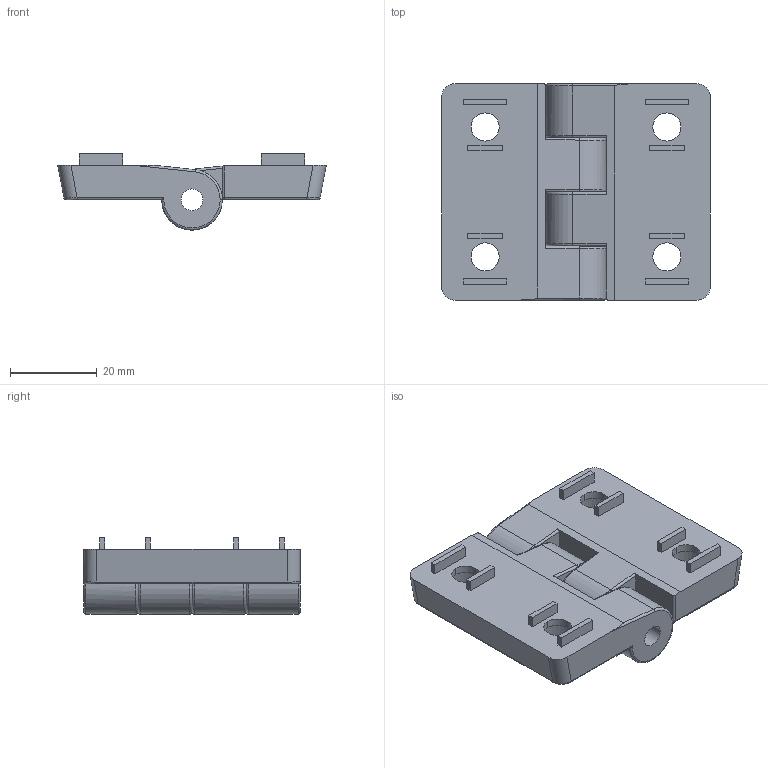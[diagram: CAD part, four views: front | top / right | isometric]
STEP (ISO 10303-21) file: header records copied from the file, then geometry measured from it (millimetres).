
FILE_DESCRIPTION (( 'STEP AP214' ), '1' );
FILE_NAME ('084.501.014.STEP', '2022-02-04T08:47:24', ( '' ), ( '' ), 'SwSTEP 2.0', 'SolidWorks 2018', '' );
FILE_SCHEMA (( 'AUTOMOTIVE_DESIGN' ));
Length unit declared in the file: millimetre
Products named in the file (2): 084.501.014_L; 084.501.014
Assembly tree (2 placements, depth 2):
  084.501.014
    084.501.014_L  x2
Bounding box: 62 x 50 x 17.6 mm (x, y, z)
Volume: 23711.4 mm3; surface area: 11516.4 mm2
Topology: 2 solids, 2 shells, 138 faces, 342 edges, 218 vertices
Faces by surface type: plane 66, cylinder 52, torus 14, bspline 4, sphere 2
Entity records: 2182 total; most frequent: CARTESIAN_POINT 451, DIRECTION 359, ORIENTED_EDGE 340, EDGE_CURVE 170, AXIS2_PLACEMENT_3D 129, VERTEX_POINT 109, VECTOR 101, LINE 101
